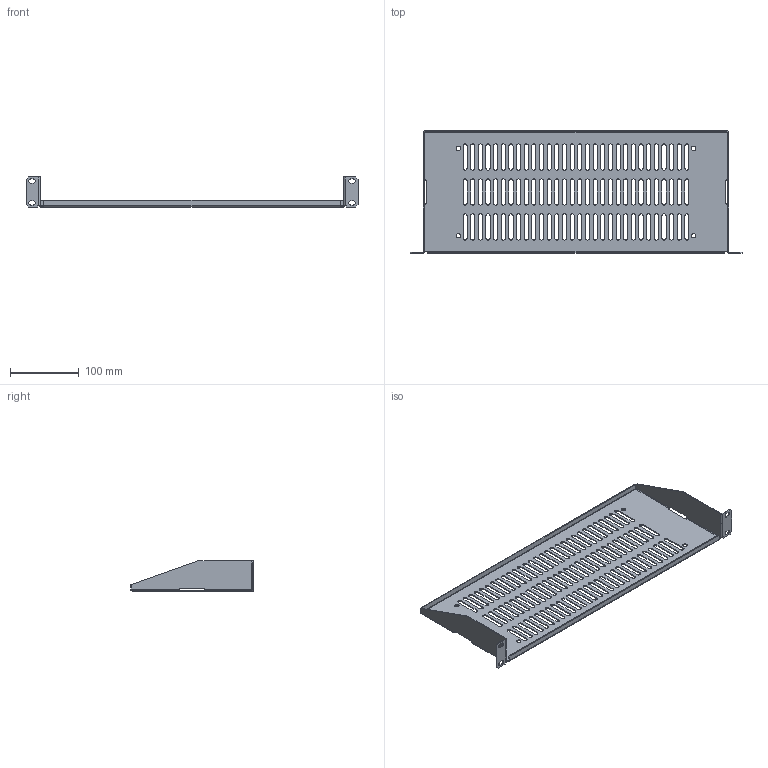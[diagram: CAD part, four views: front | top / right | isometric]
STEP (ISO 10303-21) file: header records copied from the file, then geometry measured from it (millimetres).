
FILE_DESCRIPTION( ( 'Unknown' ), '1' );
FILE_NAME( 'Q:/ACCESSORIES/SHELVES/RAS/WEB DRAWINGS/STEP/RASV190107U.stp', 'Unknown', ( 'Unknown' ), ( 'Unknown' ), 'PSStep 10.1', 'Unknown', ' ' );
FILE_SCHEMA( ( 'AUTOMOTIVE_DESIGN { 1 0 10303 214 1 1 1 1 }' ) );
Length unit declared in the file: millimetre
Products named in the file (1): 1
Bounding box: 482.75 x 177.8 x 43.64 mm (x, y, z)
Volume: 112692.7 mm3; surface area: 169133.4 mm2
Topology: 1 solids, 1 shells, 474 faces, 1396 edges, 920 vertices
Faces by surface type: plane 240, cylinder 220, bspline 14
Full cylindrical faces by diameter (mm): 6.35 x4
Entity records: 20531 total; most frequent: CARTESIAN_POINT 3454, ORIENTED_EDGE 2776, DIRECTION 2695, EDGE_CURVE 1388, LINE 917, VECTOR 917, VERTEX_POINT 916, AXIS2_PLACEMENT_3D 889
